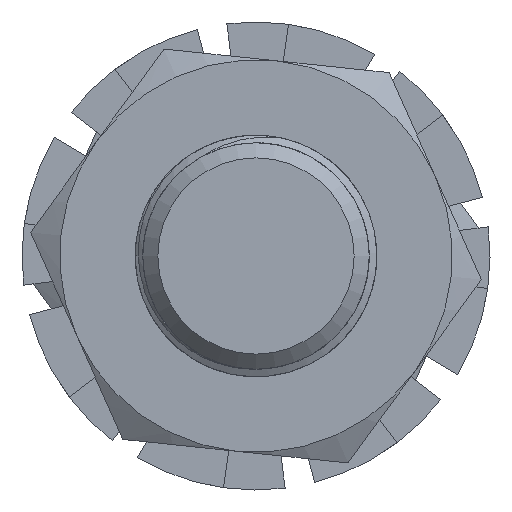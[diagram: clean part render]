
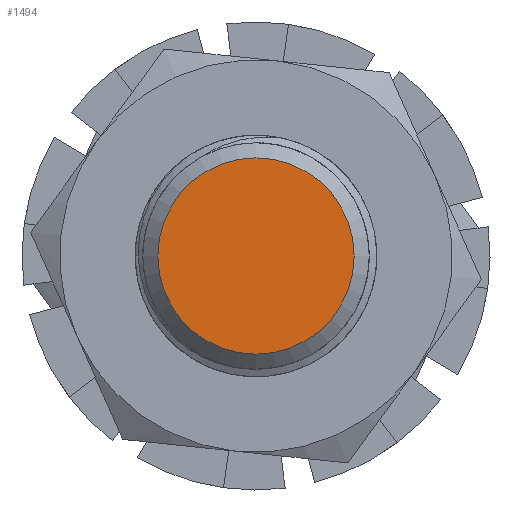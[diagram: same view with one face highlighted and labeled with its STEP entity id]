
A CAD part, left-side view. The second image highlights one B-rep face of the part: STEP entity #1494.
In plain terms, the highlighted planar face has unit normal (-1, 0, 0).
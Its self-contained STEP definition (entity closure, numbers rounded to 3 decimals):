
#41 = DIRECTION ( 'NONE',  ( -1., 0., 0. ) ) ;
#830 = CARTESIAN_POINT ( 'NONE',  ( 17.5, 0., 0. ) ) ;
#901 = DIRECTION ( 'NONE',  ( 0., 0., 1. ) ) ;
#971 = EDGE_CURVE ( 'NONE', #4981, #4981, #4869, .T. ) ;
#1494 = ADVANCED_FACE ( 'NONE', ( #8469 ), #2594, .T. ) ;
#2241 = AXIS2_PLACEMENT_3D ( 'NONE', #3518, #6594, #5757 ) ;
#2454 = EDGE_LOOP ( 'NONE', ( #5350 ) ) ;
#2594 = PLANE ( 'NONE',  #2241 ) ;
#3518 = CARTESIAN_POINT ( 'NONE',  ( 17.5, 0., 0. ) ) ;
#3929 = AXIS2_PLACEMENT_3D ( 'NONE', #830, #41, #901 ) ;
#4869 = CIRCLE ( 'NONE', #3929, 3.25 ) ;
#4981 = VERTEX_POINT ( 'NONE', #6699 ) ;
#5350 = ORIENTED_EDGE ( 'NONE', *, *, #971, .T. ) ;
#5757 = DIRECTION ( 'NONE',  ( 0., 0., 1. ) ) ;
#6594 = DIRECTION ( 'NONE',  ( -1., 0., 0. ) ) ;
#6699 = CARTESIAN_POINT ( 'NONE',  ( 17.5, 0., 3.25 ) ) ;
#8469 = FACE_OUTER_BOUND ( 'NONE', #2454, .T. ) ;
